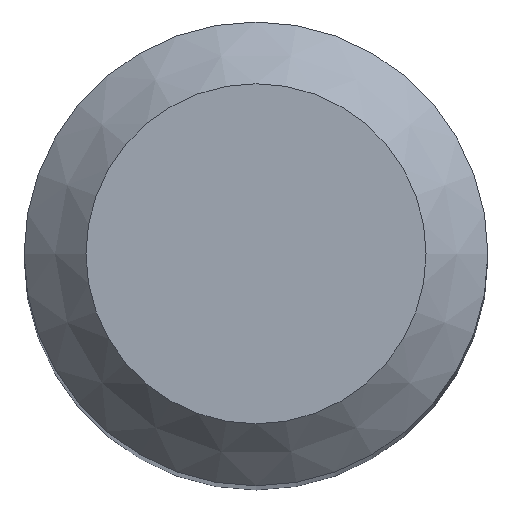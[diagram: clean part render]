
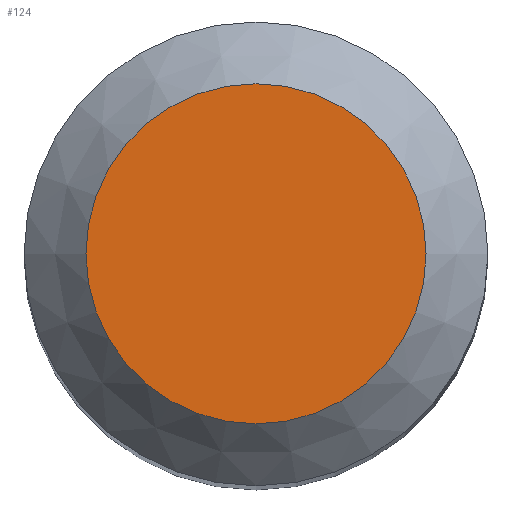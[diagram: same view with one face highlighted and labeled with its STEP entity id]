
A CAD part, top view. The second image highlights one B-rep face of the part: STEP entity #124.
In plain terms, the highlighted planar face has unit normal (0, 0, 1).
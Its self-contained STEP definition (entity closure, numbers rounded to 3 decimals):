
#108=CARTESIAN_POINT('',(2.2,0.0,70.0));
#109=DIRECTION('',(0.0,0.0,1.0));
#110=DIRECTION('',(1.0,0.0,0.0));
#111=AXIS2_PLACEMENT_3D('',#108,#109,#110);
#112=PLANE('',#111);
#113=CARTESIAN_POINT('',(-2.2,0.0,70.));
#114=VERTEX_POINT('',#113);
#115=CARTESIAN_POINT('',(0.0,0.0,70.));
#116=DIRECTION('',(0.0,0.0,-1.0));
#117=DIRECTION('',(-1.0,0.0,0.0));
#118=AXIS2_PLACEMENT_3D('',#115,#116,#117);
#119=CIRCLE('',#118,2.2);
#120=EDGE_CURVE('',#114,#114,#119,.T.);
#121=ORIENTED_EDGE('',*,*,#120,.F.);
#122=EDGE_LOOP('',(#121));
#123=FACE_OUTER_BOUND('',#122,.T.);
#124=ADVANCED_FACE('',(#123),#112,.T.);
